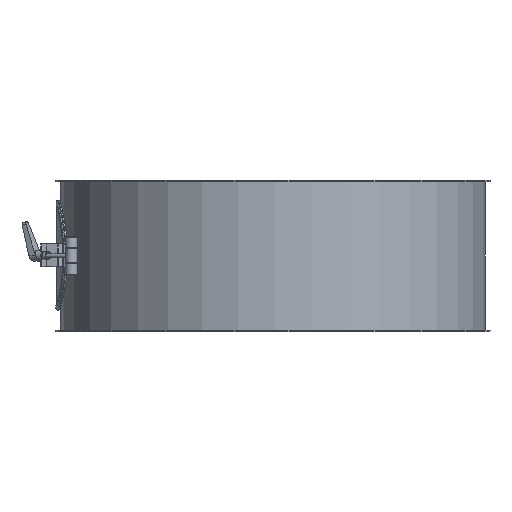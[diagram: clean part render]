
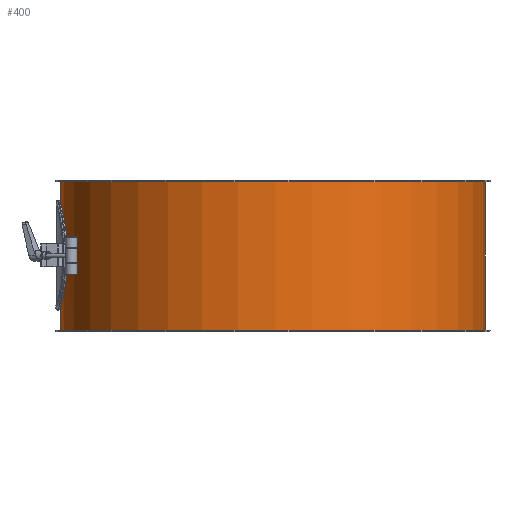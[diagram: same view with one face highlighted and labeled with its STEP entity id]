
A CAD part, front view. The second image highlights one B-rep face of the part: STEP entity #400.
In plain terms, the highlighted cylindrical face has radius 281 mm (diameter 562 mm), a full revolution.
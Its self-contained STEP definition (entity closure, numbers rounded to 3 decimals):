
#185=CARTESIAN_POINT('',(-275.054,-57.5,100.));
#186=VERTEX_POINT('',#185);
#187=CARTESIAN_POINT('',(-275.054,-57.5,100.));
#188=CARTESIAN_POINT('',(-275.054,-57.5,96.379));
#189=CARTESIAN_POINT('',(-275.128,-57.152,92.638));
#190=CARTESIAN_POINT('',(-275.427,-55.692,85.202));
#191=CARTESIAN_POINT('',(-275.652,-54.58,81.507));
#192=CARTESIAN_POINT('',(-276.218,-51.643,74.427));
#193=CARTESIAN_POINT('',(-276.557,-49.816,71.036));
#194=CARTESIAN_POINT('',(-277.284,-45.597,64.766));
#195=CARTESIAN_POINT('',(-277.671,-43.206,61.888));
#196=CARTESIAN_POINT('',(-278.415,-38.112,56.795));
#197=CARTESIAN_POINT('',(-278.8,-35.234,54.403));
#198=CARTESIAN_POINT('',(-279.521,-28.965,50.185));
#199=CARTESIAN_POINT('',(-279.856,-25.573,48.357));
#200=CARTESIAN_POINT('',(-280.413,-18.492,45.42));
#201=CARTESIAN_POINT('',(-280.635,-14.798,44.308));
#202=CARTESIAN_POINT('',(-280.928,-7.362,42.848));
#203=CARTESIAN_POINT('',(-281.0,-3.621,42.5));
#204=CARTESIAN_POINT('',(-281.0,3.621,42.5));
#205=CARTESIAN_POINT('',(-280.928,7.362,42.848));
#206=CARTESIAN_POINT('',(-280.635,14.798,44.308));
#207=CARTESIAN_POINT('',(-280.413,18.492,45.42));
#208=CARTESIAN_POINT('',(-279.856,25.573,48.357));
#209=CARTESIAN_POINT('',(-279.521,28.965,50.185));
#210=CARTESIAN_POINT('',(-278.8,35.234,54.403));
#211=CARTESIAN_POINT('',(-278.415,38.112,56.795));
#212=CARTESIAN_POINT('',(-277.671,43.206,61.888));
#213=CARTESIAN_POINT('',(-277.284,45.597,64.766));
#214=CARTESIAN_POINT('',(-276.557,49.816,71.036));
#215=CARTESIAN_POINT('',(-276.218,51.643,74.427));
#216=CARTESIAN_POINT('',(-275.652,54.58,81.507));
#217=CARTESIAN_POINT('',(-275.427,55.692,85.202));
#218=CARTESIAN_POINT('',(-275.128,57.152,92.638));
#219=CARTESIAN_POINT('',(-275.054,57.5,96.379));
#220=CARTESIAN_POINT('',(-275.054,57.5,103.621));
#221=CARTESIAN_POINT('',(-275.128,57.152,107.362));
#222=CARTESIAN_POINT('',(-275.427,55.692,114.798));
#223=CARTESIAN_POINT('',(-275.652,54.58,118.493));
#224=CARTESIAN_POINT('',(-276.218,51.643,125.573));
#225=CARTESIAN_POINT('',(-276.557,49.816,128.964));
#226=CARTESIAN_POINT('',(-277.284,45.597,135.234));
#227=CARTESIAN_POINT('',(-277.671,43.206,138.112));
#228=CARTESIAN_POINT('',(-278.415,38.112,143.205));
#229=CARTESIAN_POINT('',(-278.8,35.234,145.597));
#230=CARTESIAN_POINT('',(-279.521,28.965,149.815));
#231=CARTESIAN_POINT('',(-279.856,25.573,151.643));
#232=CARTESIAN_POINT('',(-280.413,18.492,154.58));
#233=CARTESIAN_POINT('',(-280.635,14.798,155.692));
#234=CARTESIAN_POINT('',(-280.928,7.362,157.152));
#235=CARTESIAN_POINT('',(-281.0,3.621,157.5));
#236=CARTESIAN_POINT('',(-281.0,-3.621,157.5));
#237=CARTESIAN_POINT('',(-280.928,-7.362,157.152));
#238=CARTESIAN_POINT('',(-280.635,-14.798,155.692));
#239=CARTESIAN_POINT('',(-280.413,-18.492,154.58));
#240=CARTESIAN_POINT('',(-279.856,-25.573,151.643));
#241=CARTESIAN_POINT('',(-279.521,-28.965,149.815));
#242=CARTESIAN_POINT('',(-278.8,-35.234,145.597));
#243=CARTESIAN_POINT('',(-278.415,-38.112,143.205));
#244=CARTESIAN_POINT('',(-277.671,-43.206,138.112));
#245=CARTESIAN_POINT('',(-277.284,-45.597,135.234));
#246=CARTESIAN_POINT('',(-276.557,-49.816,128.964));
#247=CARTESIAN_POINT('',(-276.218,-51.643,125.573));
#248=CARTESIAN_POINT('',(-275.652,-54.58,118.493));
#249=CARTESIAN_POINT('',(-275.427,-55.692,114.798));
#250=CARTESIAN_POINT('',(-275.128,-57.152,107.362));
#251=CARTESIAN_POINT('',(-275.054,-57.5,103.621));
#252=CARTESIAN_POINT('',(-275.054,-57.5,100.));
#253=B_SPLINE_CURVE_WITH_KNOTS('',3,(#187,#188,#189,#190,#191,#192,#193,#194,#195,#196,#197,#198,#199,#200,#201,#202,#203,#204,#205,#206,#207,#208,#209,#210,#211,#212,#213,#214,#215,#216,#217,#218,#219,#220,#221,#222,#223,#224,#225,#226,#227,#228,#229,#230,#231,#232,#233,#234,#235,#236,#237,#238,#239,#240,#241,#242,#243,#244,#245,#246,#247,#248,#249,#250,#251,#252),.UNSPECIFIED.,.T.,.U.,(4,2,2,2,2,2,2,2,2,2,2,2,2,2,2,2,2,2,2,2,2,2,2,2,2,2,2,2,2,2,2,2,4),(0.0,1.086,2.173,3.259,4.345,5.432,6.518,7.604,8.69,9.777,10.863,11.949,13.035,14.122,15.208,16.294,17.381,18.467,19.553,20.639,21.726,22.812,23.898,24.985,26.071,27.157,28.243,29.33,30.416,31.502,32.588,33.675,34.761),.UNSPECIFIED.);
#254=EDGE_CURVE('',#186,#186,#253,.T.);
#295=CARTESIAN_POINT('',(281.0,0.,198.0));
#296=VERTEX_POINT('',#295);
#297=CARTESIAN_POINT('',(0.0,0.0,198.0));
#298=DIRECTION('',(0.0,0.0,-1.0));
#299=DIRECTION('',(-1.0,0.0,0.0));
#300=AXIS2_PLACEMENT_3D('',#297,#298,#299);
#301=CIRCLE('',#300,281.0);
#302=EDGE_CURVE('',#296,#296,#301,.T.);
#343=CARTESIAN_POINT('',(-281.0,0.,2.0));
#344=VERTEX_POINT('',#343);
#345=CARTESIAN_POINT('',(0.0,0.0,2.0));
#346=DIRECTION('',(0.0,0.0,1.0));
#347=DIRECTION('',(-1.0,0.0,0.0));
#348=AXIS2_PLACEMENT_3D('',#345,#346,#347);
#349=CIRCLE('',#348,281.0);
#350=EDGE_CURVE('',#344,#344,#349,.T.);
#386=CARTESIAN_POINT('',(0.0,0.0,0.0));
#387=DIRECTION('',(0.0,0.0,1.0));
#388=DIRECTION('',(-1.0,0.0,0.0));
#389=AXIS2_PLACEMENT_3D('',#386,#387,#388);
#390=CYLINDRICAL_SURFACE('',#389,281.0);
#391=ORIENTED_EDGE('',*,*,#302,.T.);
#392=EDGE_LOOP('',(#391));
#393=FACE_OUTER_BOUND('',#392,.T.);
#394=ORIENTED_EDGE('',*,*,#254,.T.);
#395=EDGE_LOOP('',(#394));
#396=FACE_BOUND('',#395,.T.);
#397=ORIENTED_EDGE('',*,*,#350,.T.);
#398=EDGE_LOOP('',(#397));
#399=FACE_BOUND('',#398,.T.);
#400=ADVANCED_FACE('',(#393,#396,#399),#390,.T.);
